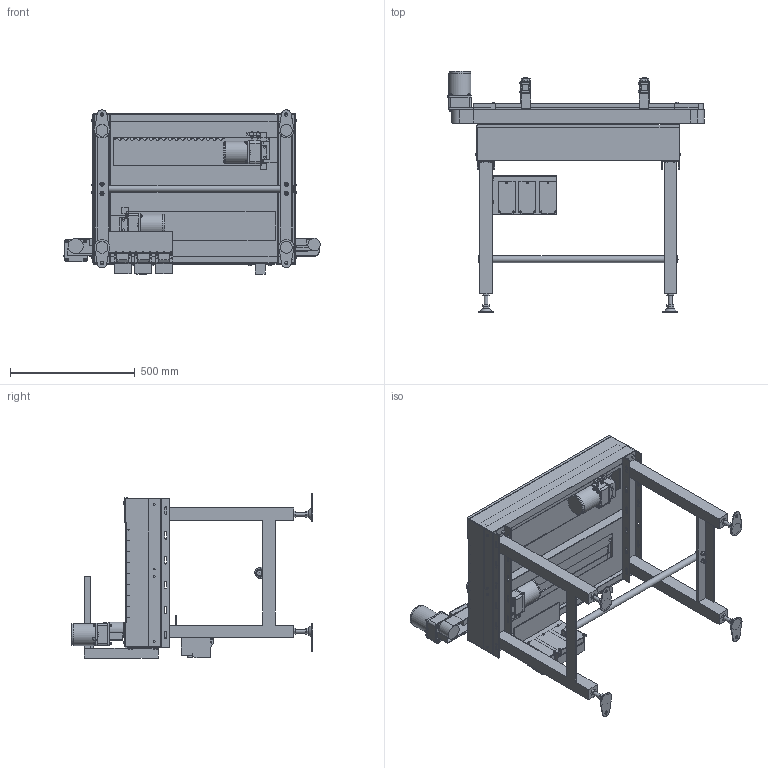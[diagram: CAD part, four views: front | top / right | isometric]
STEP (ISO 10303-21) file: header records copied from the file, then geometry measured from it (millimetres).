
FILE_DESCRIPTION( (''), '2;1');
FILE_NAME ('WEB-SGA-304x3-400-R-IVH-15-B.stp','2026-09-19T10:38:37',(''),(''),'spGate 21.9.5 (****-****-****-****)','','');
FILE_SCHEMA (('AUTOMOTIVE_DESIGN'));
Length unit declared in the file: millimetre
Products named in the file (91): WEB-SGA-304x3-400-R-IVH-15-B; TEMP_X_T-prt0; TEMP_X_T-prt1; TEMP_X_T-prt2; TEMP_X_T-prt3; TEMP_X_T-prt4; TEMP_X_T-prt5; TEMP_X_T-prt6; TEMP_X_T-prt7; TEMP_X_T-prt8; TEMP_X_T-prt9; TEMP_X_T-prt10; TEMP_X_T-prt11; TEMP_X_T-prt12; TEMP_X_T-prt13; TEMP_X_T-prt14; TEMP_X_T-prt15; TEMP_X_T-prt16; TEMP_X_T-prt17; TEMP_X_T-prt18; TEMP_X_T-prt19; TEMP_X_T-prt20; TEMP_X_T-prt21; TEMP_X_T-prt22; TEMP_X_T-prt23; TEMP_X_T-prt24; TEMP_X_T-prt25; TEMP_X_T-prt26; TEMP_X_T-prt27; TEMP_X_T-prt28; TEMP_X_T-prt29; TEMP_X_T-prt30; TEMP_X_T-prt31; TEMP_X_T-prt32; TEMP_X_T-prt33; TEMP_X_T-prt34; TEMP_X_T-prt35; TEMP_X_T-prt36; TEMP_X_T-prt37; TEMP_X_T-prt38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
Assembly tree (90 placements, depth 2):
  WEB-SGA-304x3-400-R-IVH-15-B
    TEMP_X_T-prt0
    TEMP_X_T-prt1
    TEMP_X_T-prt2
    TEMP_X_T-prt3
    TEMP_X_T-prt4
    TEMP_X_T-prt5
    TEMP_X_T-prt6
    TEMP_X_T-prt7
    TEMP_X_T-prt8
    TEMP_X_T-prt9
    TEMP_X_T-prt10
    TEMP_X_T-prt11
    TEMP_X_T-prt12
    TEMP_X_T-prt13
    TEMP_X_T-prt14
    TEMP_X_T-prt15
    TEMP_X_T-prt16
    TEMP_X_T-prt17
    TEMP_X_T-prt18
    TEMP_X_T-prt19
    TEMP_X_T-prt20
    TEMP_X_T-prt21
    TEMP_X_T-prt22
    TEMP_X_T-prt23
    TEMP_X_T-prt24
    TEMP_X_T-prt25
    TEMP_X_T-prt26
    TEMP_X_T-prt27
    TEMP_X_T-prt28
    TEMP_X_T-prt29
    TEMP_X_T-prt30
    TEMP_X_T-prt31
    TEMP_X_T-prt32
    TEMP_X_T-prt33
    TEMP_X_T-prt34
    TEMP_X_T-prt35
    TEMP_X_T-prt36
    TEMP_X_T-prt37
    TEMP_X_T-prt38
    TEMP_X_T-prt39
    TEMP_X_T-prt40
    TEMP_X_T-prt41
    TEMP_X_T-prt42
    TEMP_X_T-prt43
    TEMP_X_T-prt44
    TEMP_X_T-prt45
    TEMP_X_T-prt46
    TEMP_X_T-prt47
    TEMP_X_T-prt48
    TEMP_X_T-prt49
    TEMP_X_T-prt50
    TEMP_X_T-prt51
    TEMP_X_T-prt52
    TEMP_X_T-prt53
    TEMP_X_T-prt54
    TEMP_X_T-prt55
    TEMP_X_T-prt56
    TEMP_X_T-prt57
    TEMP_X_T-prt58
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Bounding box: 1029.27 x 968.4 x 660 mm (x, y, z)
Volume: 24539205.7 mm3; surface area: 5568621.2 mm2
Topology: 90 solids, 91 shells, 2941 faces, 7604 edges, 5047 vertices
Faces by surface type: plane 2205, cylinder 514, bspline 214, sphere 8
Full cylindrical faces by diameter (mm): 2 x3, 3.3 x9, 4 x18, 5 x17, 5.5 x3, 6 x34, 6.5 x24, 6.6 x12, 7 x4, 8 x10, 8.49 x3, 9 x8, 10 x12, 10.5 x1, 11.5 x2, 12 x3, 12.2 x2, 12.5 x12, 13 x4, 16 x10, 17 x4, 20 x4, 22 x1, 27.2 x1, 28 x2, 36 x3, 40 x4, 50 x2, 83 x3, 84 x3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
Entity records: 157189 total; most frequent: CARTESIAN_POINT 22098, ORIENTED_EDGE 15164, DIRECTION 14495, COLOUR_RGB 10613, PRESENTATION_STYLE_ASSIGNMENT 10613, STYLED_ITEM 10613, EDGE_CURVE 7582, DRAUGHTING_PRE_DEFINED_CURVE_FONT 7582
